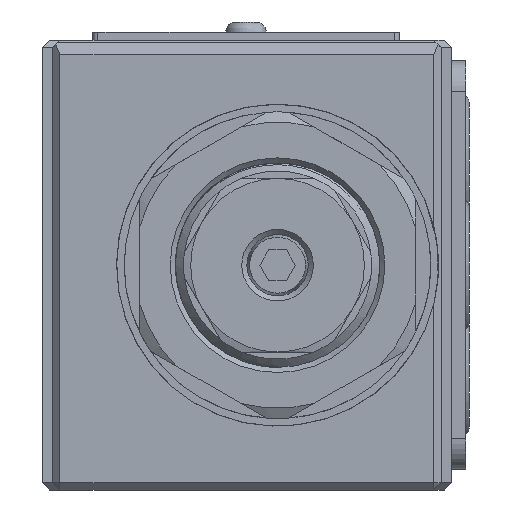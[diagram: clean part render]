
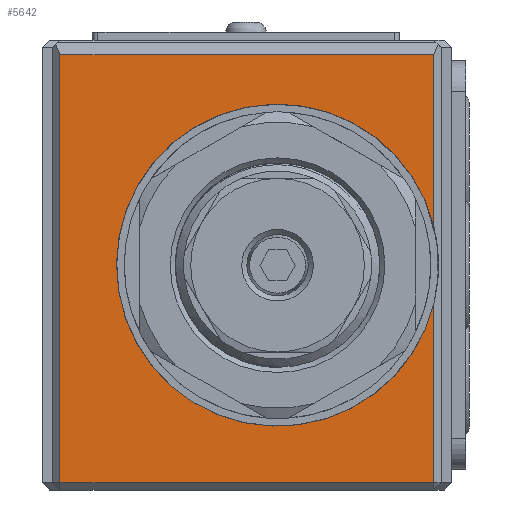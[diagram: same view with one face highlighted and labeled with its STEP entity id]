
A CAD part, left-side view. The second image highlights one B-rep face of the part: STEP entity #5642.
In plain terms, the highlighted planar face has unit normal (-1, 0, 0).
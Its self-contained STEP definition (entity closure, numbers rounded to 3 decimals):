
#237=LINE('',#17252,#554);
#238=LINE('',#17255,#555);
#239=LINE('',#17259,#556);
#240=LINE('',#17261,#557);
#241=LINE('',#17263,#558);
#554=VECTOR('',#8659,1.);
#555=VECTOR('',#8660,1.);
#556=VECTOR('',#8663,1.);
#557=VECTOR('',#8664,1.);
#558=VECTOR('',#8665,1.);
#922=FACE_OUTER_BOUND('',#1936,.T.);
#1282=PLANE('',#7332);
#1936=EDGE_LOOP('',(#3082,#3083,#3084,#3085,#3086,#3087));
#3082=ORIENTED_EDGE('',*,*,#4176,.T.);
#3083=ORIENTED_EDGE('',*,*,#4177,.T.);
#3084=ORIENTED_EDGE('',*,*,#4178,.F.);
#3085=ORIENTED_EDGE('',*,*,#4179,.T.);
#3086=ORIENTED_EDGE('',*,*,#4180,.T.);
#3087=ORIENTED_EDGE('',*,*,#4181,.T.);
#4176=EDGE_CURVE('',#6657,#6658,#237,.T.);
#4177=EDGE_CURVE('',#6658,#6659,#238,.T.);
#4178=EDGE_CURVE('',#6660,#6659,#4679,.T.);
#4179=EDGE_CURVE('',#6660,#6661,#239,.T.);
#4180=EDGE_CURVE('',#6661,#6662,#240,.T.);
#4181=EDGE_CURVE('',#6662,#6657,#241,.T.);
#4679=CIRCLE('',#7331,15.75);
#5642=ADVANCED_FACE('',(#922),#1282,.T.);
#6657=VERTEX_POINT('',#17253);
#6658=VERTEX_POINT('',#17254);
#6659=VERTEX_POINT('',#17256);
#6660=VERTEX_POINT('',#17258);
#6661=VERTEX_POINT('',#17260);
#6662=VERTEX_POINT('',#17262);
#7331=AXIS2_PLACEMENT_3D('',#17257,#8661,#8662);
#7332=AXIS2_PLACEMENT_3D('',#17264,#8666,#8667);
#8659=DIRECTION('',(0.,-1.,0.));
#8660=DIRECTION('',(0.,0.,1.));
#8661=DIRECTION('',(-1.,0.,0.));
#8662=DIRECTION('',(0.,0.,1.));
#8663=DIRECTION('',(0.,0.,1.));
#8664=DIRECTION('',(0.,1.,0.));
#8665=DIRECTION('',(0.,0.,-1.));
#8666=DIRECTION('',(-1.,0.,0.));
#8667=DIRECTION('',(0.,0.,-1.));
#17252=CARTESIAN_POINT('',(16.818,52.312,-21.3));
#17253=CARTESIAN_POINT('',(16.818,89.612,-21.3));
#17254=CARTESIAN_POINT('',(16.818,53.012,-21.3));
#17255=CARTESIAN_POINT('',(16.818,53.012,22.));
#17256=CARTESIAN_POINT('',(16.818,53.012,-3.738));
#17257=CARTESIAN_POINT('',(16.818,68.312,0.));
#17258=CARTESIAN_POINT('',(16.818,53.012,3.738));
#17259=CARTESIAN_POINT('',(16.818,53.012,22.));
#17260=CARTESIAN_POINT('',(16.818,53.012,20.6));
#17261=CARTESIAN_POINT('',(16.818,52.312,20.6));
#17262=CARTESIAN_POINT('',(16.818,89.612,20.6));
#17263=CARTESIAN_POINT('',(16.818,89.612,22.));
#17264=CARTESIAN_POINT('',(16.818,52.312,22.));
